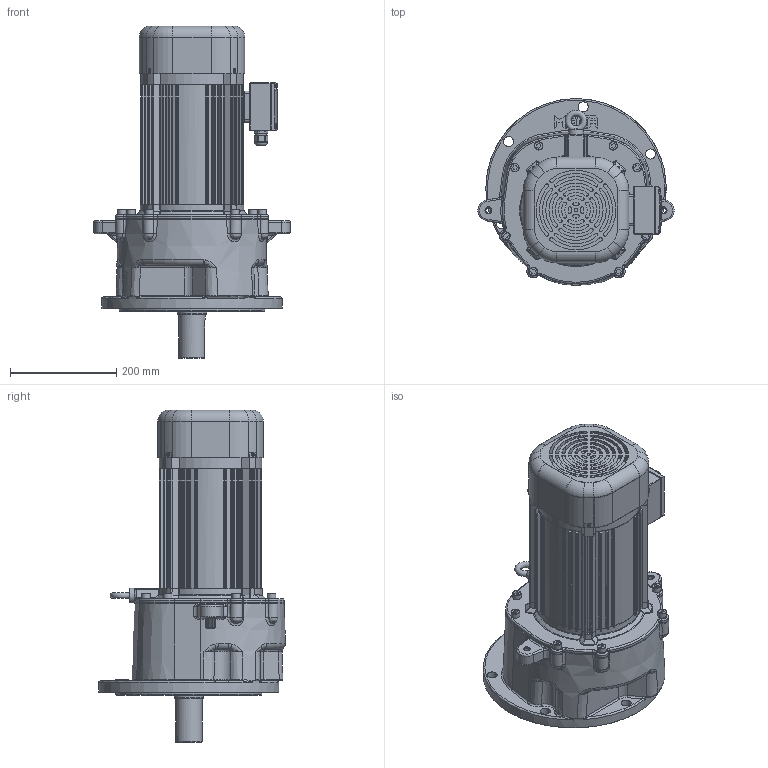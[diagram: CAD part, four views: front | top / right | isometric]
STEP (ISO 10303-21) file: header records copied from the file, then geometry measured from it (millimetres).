
FILE_DESCRIPTION(/* description */ (''),/* implementation_level */ '2;1');
FILE_NAME(/* name */ 'Z:\동력 3D 파일\PMK181_2.2kW_Brake_3D.stp',/* time_stamp */ '2021-12-01T09:13:04+09:00',/* author */ ('jaebok'),/* organization */ (''),/* preprocessor_version */ 'ST-DEVELOPER v18.1',/* originating_system */ 'Autodesk Inventor 2022',/* authorisation */ '');
FILE_SCHEMA (('AUTOMOTIVE_DESIGN { 1 0 10303 214 3 1 1 }'));
Products named in the file (1): 부품8
Bounding box: 369.86 x 352.21 x 625.6 mm (x, y, z)
Volume: 9052239.1 mm3; surface area: 1530345.4 mm2
Topology: 1 solids, 40 shells, 3095 faces, 7864 edges, 4685 vertices
Faces by surface type: plane 1053, cylinder 856, bspline 595, torus 292, cone 180, sphere 119
Full cylindrical faces by diameter (mm): 3.242 x4, 3.25 x1, 3.6 x4, 4 x21, 5 x13, 6 x5, 6.8 x4, 7 x8, 8 x9, 8.376 x8, 9 x4, 10 x9, 10.106 x2, 10.2 x1, 11 x8, 12 x6, 12.5 x1, 15 x1, 16 x8, 19 x6, 20 x2, 21 x1, 22 x1, 23.6 x1, 25 x1, 26 x1, 28 x1, 36 x2, 48 x1, 49.6 x1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
Entity records: 116463 total; most frequent: CARTESIAN_POINT 42329, ORIENTED_EDGE 15200, DIRECTION 14343, EDGE_CURVE 7600, AXIS2_PLACEMENT_3D 5685, VERTEX_POINT 4685, EDGE_LOOP 3335, CIRCLE 3156
